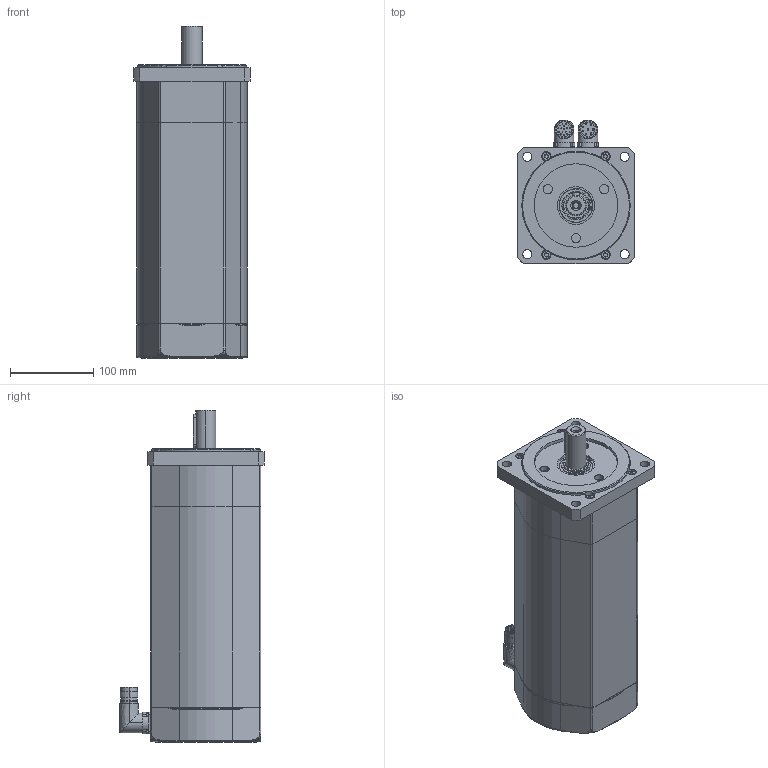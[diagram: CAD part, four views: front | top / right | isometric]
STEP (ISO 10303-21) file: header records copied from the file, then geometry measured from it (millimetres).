
FILE_DESCRIPTION (( 'STEP AP203' ), '1' );
FILE_NAME ('SSAX140XL_CF.STEP', '2015-09-10T13:36:27', ( 'Tecnico motori' ), ( '' ), 'SwSTEP 2.0', 'SolidWorks 2010', '' );
FILE_SCHEMA (( 'CONFIG_CONTROL_DESIGN' ));
Length unit declared in the file: millimetre
Products named in the file (1): SSAX140XL_CF
Bounding box: 140 x 173 x 397.85 mm (x, y, z)
Surface area: 232787.3 mm2 (no closed solid volume)
Topology: 0 solids, 33 shells, 467 faces, 1320 edges, 919 vertices
Faces by surface type: cylinder 216, plane 192, cone 29, torus 24, bspline 6
Entity records: 16360 total; most frequent: CARTESIAN_POINT 3793, DIRECTION 2816, ORIENTED_EDGE 2285, EDGE_CURVE 1320, AXIS2_PLACEMENT_3D 1108, VERTEX_POINT 919, CIRCLE 646, LINE 600
